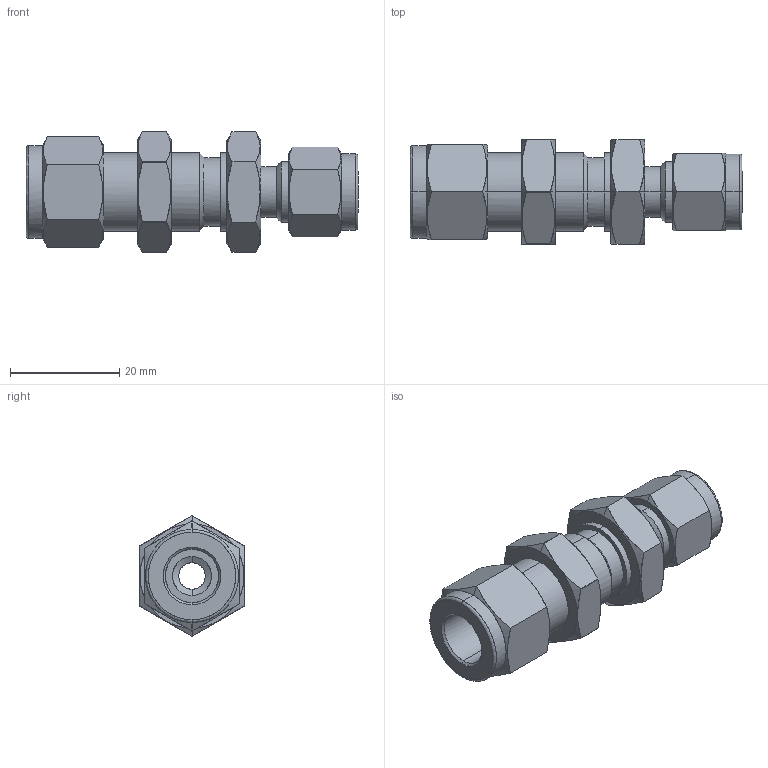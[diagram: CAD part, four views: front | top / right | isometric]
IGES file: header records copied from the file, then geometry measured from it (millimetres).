
Start section: Comment
Global section: file name: SBHRU6-4.igs; native system:  By UGS Corp.; preprocessor: XPlus GENERIC/IGES 3.0; author: Author; organization: Title; date: 20100528.111900; units: millimetre
Bounding box: 60.7 x 19.1 x 22 mm (x, y, z)
Surface area: 7522.5 mm2 (no closed solid volume)
Topology: 0 solids, 0 shells, 122 faces, 538 edges, 538 vertices
Faces by surface type: bspline 122
